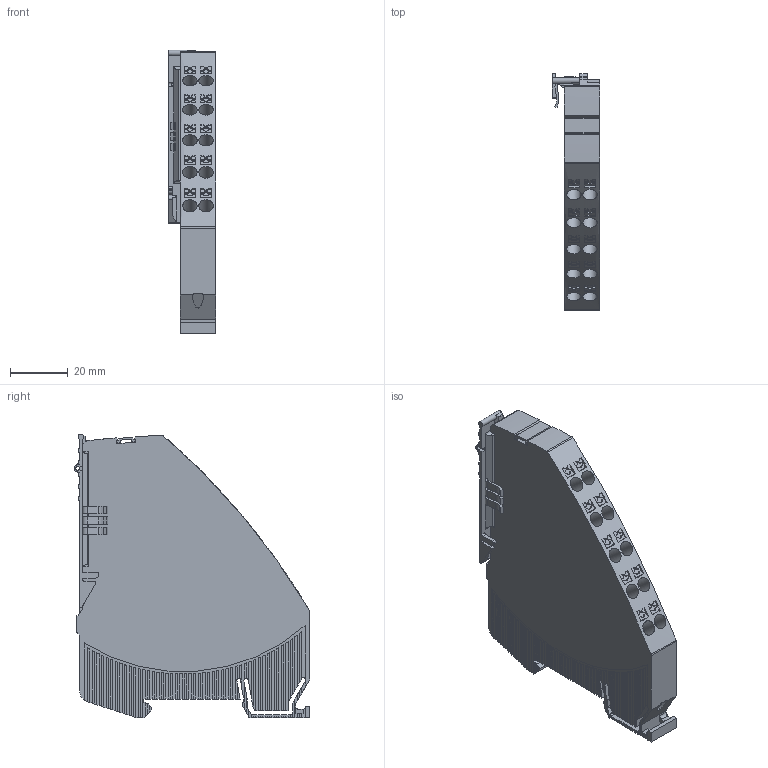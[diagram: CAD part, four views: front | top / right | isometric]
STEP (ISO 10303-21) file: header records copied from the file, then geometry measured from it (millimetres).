
FILE_DESCRIPTION( ( 'STEP AP203' ), '1' );
FILE_NAME( 'p:/temp/worker_42/temp/exporttempdir_4252_461_4FBt6/format_0/DF3110.stp', '2020-06-16T07:30:09', ( 'License CC BY-ND 4.0' ), ( 'CADENAS' ), ' ', 'PARTsolutions', ' ' );
FILE_SCHEMA( ( 'CONFIG_CONTROL_DESIGN' ) );
Length unit declared in the file: millimetre
Products named in the file (3): DF3110; _DF3110_P1; _DF3110_P2
Assembly tree (2 placements, depth 2):
  DF3110
    _DF3110_P1
    _DF3110_P2
Bounding box: 16.65 x 81.9 x 98.5 mm (x, y, z)
Volume: 70522.3 mm3; surface area: 24645.9 mm2
Topology: 2 solids, 2 shells, 1253 faces, 3625 edges, 2415 vertices
Faces by surface type: plane 969, cylinder 280, cone 4
Full cylindrical faces by diameter (mm): 1.3 x1, 4 x2, 5 x10
Entity records: 41578 total; most frequent: CARTESIAN_POINT 7905, ORIENTED_EDGE 7212, DIRECTION 6724, EDGE_CURVE 3606, LINE 2972, VECTOR 2972, VERTEX_POINT 2413, AXIS2_PLACEMENT_3D 1876
